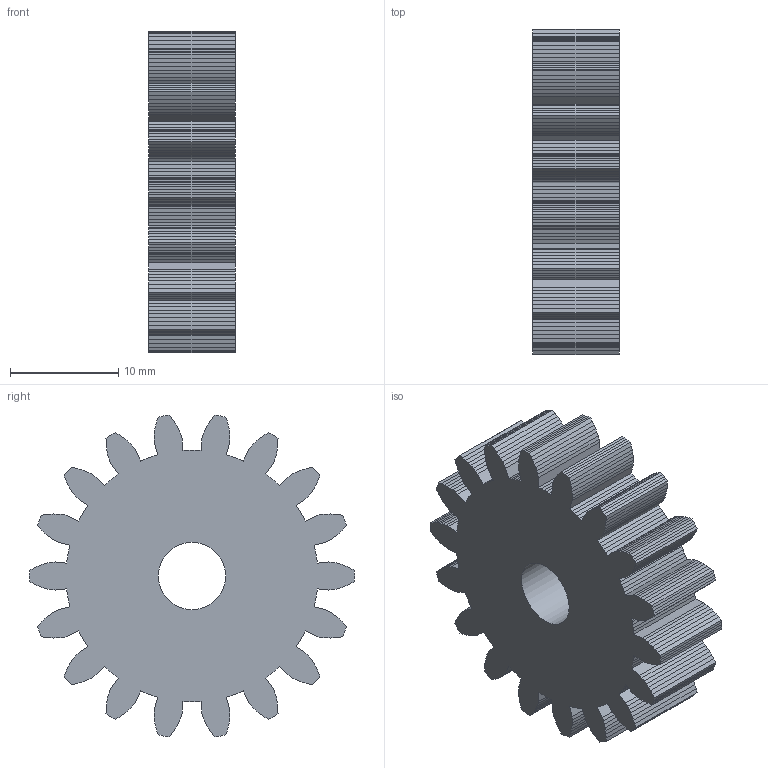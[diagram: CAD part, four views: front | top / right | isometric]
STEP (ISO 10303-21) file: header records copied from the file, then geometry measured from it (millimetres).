
FILE_DESCRIPTION(('Open CASCADE Model'),'2;1');
FILE_NAME('Open CASCADE Shape Model','2026-10-17T21:54:42',('Author'),( 'Open CASCADE'),'Open CASCADE STEP processor 7.9','Open CASCADE 7.9' ,'Unknown');
FILE_SCHEMA(('AUTOMOTIVE_DESIGN { 1 0 10303 214 1 1 1 1 }'));
Length unit declared in the file: millimetre
Products named in the file (1): Open CASCADE STEP translator 7.9 13
Bounding box: 8 x 30 x 29.7 mm (x, y, z)
Volume: 4209.4 mm3; surface area: 2630.2 mm2
Topology: 1 solids, 1 shells, 453 faces, 1353 edges, 902 vertices
Faces by surface type: plane 452, cylinder 1
Full cylindrical faces by diameter (mm): 6.2 x1
Entity records: 32518 total; most frequent: CARTESIAN_POINT 5427, DIRECTION 4967, LINE 4055, VECTOR 4055, ORIENTED_EDGE 2706, PCURVE 2706, DEFINITIONAL_REPRESENTATION 2706, EDGE_CURVE 1353
